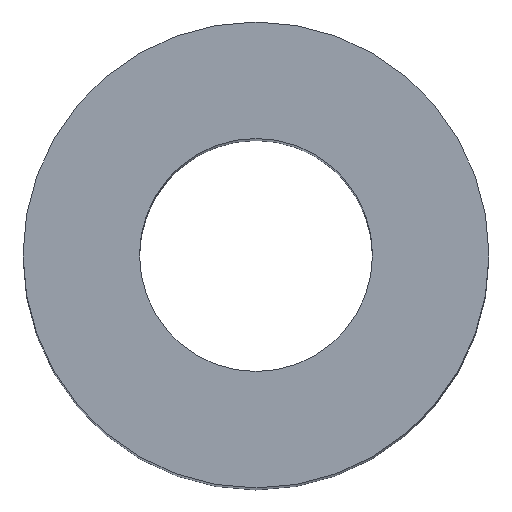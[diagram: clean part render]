
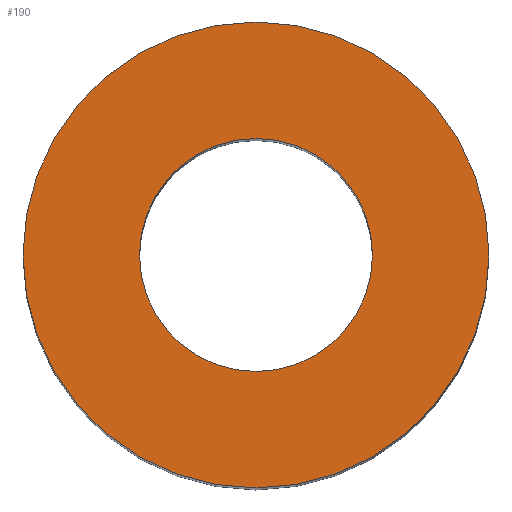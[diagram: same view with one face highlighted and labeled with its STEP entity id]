
A CAD part, top view. The second image highlights one B-rep face of the part: STEP entity #190.
In plain terms, the highlighted planar face has unit normal (0, 0, 1).
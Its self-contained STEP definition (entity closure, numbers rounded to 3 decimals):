
#24 = VERTEX_POINT('',#25);
#25 = CARTESIAN_POINT('',(4.,0.,20.));
#32 = CYLINDRICAL_SURFACE('',#33,4.);
#33 = AXIS2_PLACEMENT_3D('',#34,#35,#36);
#34 = CARTESIAN_POINT('',(0.,0.,0.));
#35 = DIRECTION('',(-0.,-0.,-1.));
#36 = DIRECTION('',(1.,0.,0.));
#51 = EDGE_CURVE('',#24,#24,#52,.T.);
#52 = SURFACE_CURVE('',#53,(#58,#65),.PCURVE_S1.);
#53 = CIRCLE('',#54,4.);
#54 = AXIS2_PLACEMENT_3D('',#55,#56,#57);
#55 = CARTESIAN_POINT('',(0.,0.,20.));
#56 = DIRECTION('',(0.,0.,1.));
#57 = DIRECTION('',(1.,0.,0.));
#58 = PCURVE('',#32,#59);
#59 = DEFINITIONAL_REPRESENTATION('',(#60),#64);
#60 = LINE('',#61,#62);
#61 = CARTESIAN_POINT('',(-0.,-20.));
#62 = VECTOR('',#63,1.);
#63 = DIRECTION('',(-1.,0.));
#64 = ( GEOMETRIC_REPRESENTATION_CONTEXT(2) 
PARAMETRIC_REPRESENTATION_CONTEXT() REPRESENTATION_CONTEXT('2D SPACE',''
  ) );
#65 = PCURVE('',#66,#71);
#66 = PLANE('',#67);
#67 = AXIS2_PLACEMENT_3D('',#68,#69,#70);
#68 = CARTESIAN_POINT('',(0.,0.,20.));
#69 = DIRECTION('',(0.,0.,1.));
#70 = DIRECTION('',(1.,0.,-0.));
#71 = DEFINITIONAL_REPRESENTATION('',(#72),#76);
#72 = CIRCLE('',#73,4.);
#73 = AXIS2_PLACEMENT_2D('',#74,#75);
#74 = CARTESIAN_POINT('',(0.,0.));
#75 = DIRECTION('',(1.,0.));
#76 = ( GEOMETRIC_REPRESENTATION_CONTEXT(2) 
PARAMETRIC_REPRESENTATION_CONTEXT() REPRESENTATION_CONTEXT('2D SPACE',''
  ) );
#112 = VERTEX_POINT('',#113);
#113 = CARTESIAN_POINT('',(2.,0.,20.));
#120 = CYLINDRICAL_SURFACE('',#121,2.);
#121 = AXIS2_PLACEMENT_3D('',#122,#123,#124);
#122 = CARTESIAN_POINT('',(0.,0.,0.));
#123 = DIRECTION('',(-0.,-0.,-1.));
#124 = DIRECTION('',(1.,0.,0.));
#139 = EDGE_CURVE('',#112,#112,#140,.T.);
#140 = SURFACE_CURVE('',#141,(#146,#153),.PCURVE_S1.);
#141 = CIRCLE('',#142,2.);
#142 = AXIS2_PLACEMENT_3D('',#143,#144,#145);
#143 = CARTESIAN_POINT('',(0.,0.,20.));
#144 = DIRECTION('',(0.,0.,1.));
#145 = DIRECTION('',(1.,0.,0.));
#146 = PCURVE('',#120,#147);
#147 = DEFINITIONAL_REPRESENTATION('',(#148),#152);
#148 = LINE('',#149,#150);
#149 = CARTESIAN_POINT('',(-0.,-20.));
#150 = VECTOR('',#151,1.);
#151 = DIRECTION('',(-1.,0.));
#152 = ( GEOMETRIC_REPRESENTATION_CONTEXT(2) 
PARAMETRIC_REPRESENTATION_CONTEXT() REPRESENTATION_CONTEXT('2D SPACE',''
  ) );
#153 = PCURVE('',#66,#154);
#154 = DEFINITIONAL_REPRESENTATION('',(#155),#159);
#155 = CIRCLE('',#156,2.);
#156 = AXIS2_PLACEMENT_2D('',#157,#158);
#157 = CARTESIAN_POINT('',(0.,0.));
#158 = DIRECTION('',(1.,0.));
#159 = ( GEOMETRIC_REPRESENTATION_CONTEXT(2) 
PARAMETRIC_REPRESENTATION_CONTEXT() REPRESENTATION_CONTEXT('2D SPACE',''
  ) );
#190 = ADVANCED_FACE('',(#191,#194),#66,.T.);
#191 = FACE_BOUND('',#192,.T.);
#192 = EDGE_LOOP('',(#193));
#193 = ORIENTED_EDGE('',*,*,#51,.T.);
#194 = FACE_BOUND('',#195,.T.);
#195 = EDGE_LOOP('',(#196));
#196 = ORIENTED_EDGE('',*,*,#139,.F.);
